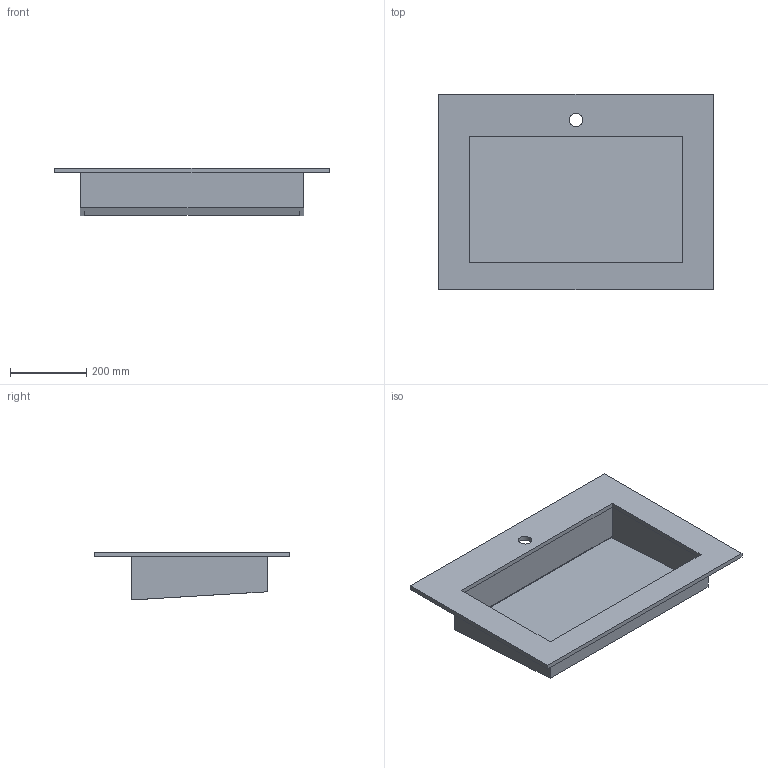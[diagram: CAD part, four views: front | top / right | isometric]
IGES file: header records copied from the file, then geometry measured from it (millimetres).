
Start section: Data from Parasolid IGES Translator 19.0.9, Copyright(c) 2006 Siemens PL M Software. All Rights Reserved.
Global section: file name: noorth-top-H 1,2 D 51,3 W 72_4649.igs; native system: By Siemens PLM Incorporated; preprocessor: XPlus GENERIC/IGES 19.0.9; author: Noname; organization: Noname; date: 20200603.113144; units: metre
Bounding box: 720 x 512 x 125.73 mm (x, y, z)
Volume: 6862990.7 mm3; surface area: 1180420.3 mm2
Topology: 2 solids, 2 shells, 30 faces, 81 edges, 54 vertices
Faces by surface type: plane 29, cylinder 1
Full cylindrical faces by diameter (mm): 34.9 x1
